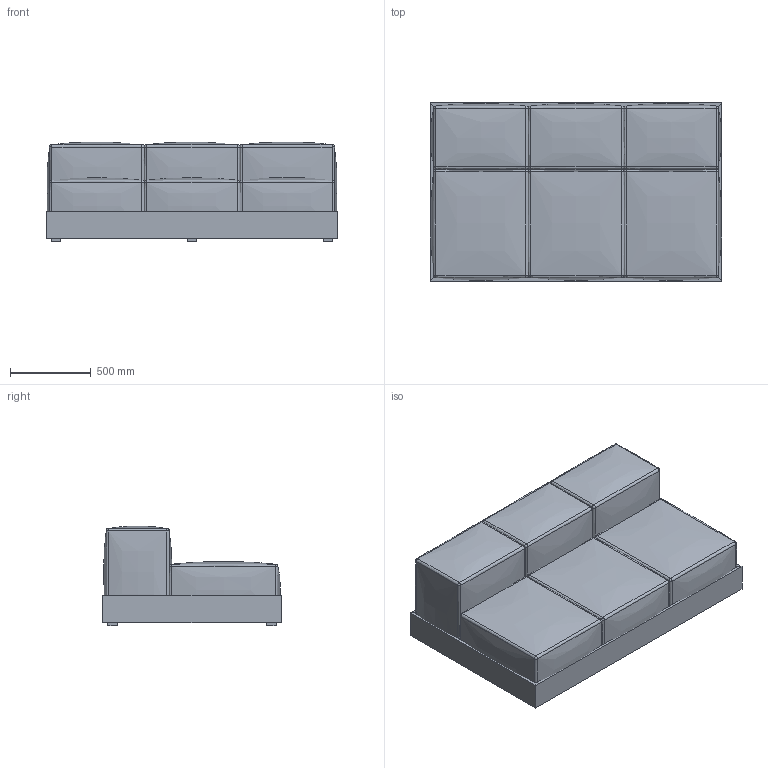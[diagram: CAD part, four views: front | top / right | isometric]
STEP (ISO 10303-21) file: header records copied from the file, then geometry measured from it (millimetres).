
FILE_DESCRIPTION(/* description */ (''),/* implementation_level */ '2;1');
FILE_NAME(/* name */ 'Polp1 180 nob.step',/* time_stamp */ '2024-01-07T09:59:07+01:00',/* author */ (''),/* organization */ (''),/* preprocessor_version */ 'ST-DEVELOPER v20',/* originating_system */ 'Autodesk Translation Framework v12.14.0.127',/* authorisation */ '');
FILE_SCHEMA (('AUTOMOTIVE_DESIGN { 1 0 10303 214 3 1 1 }'));
Length unit declared in the file: millimetre
Products named in the file (7): Polp1 180 nob; Component1; Component2; Component3; Component5; Component6; Component7
Assembly tree (6 placements, depth 2):
  Polp1 180 nob
    Component1
    Component2
    Component3
    Component5
    Component6
    Component7
Bounding box: 1800 x 1100 x 615 mm (x, y, z)
Volume: 856395091 mm3; surface area: 15617549.1 mm2
Topology: 22 solids, 22 shells, 252 faces, 480 edges, 272 vertices
Faces by surface type: plane 106, bspline 94, sphere 48, cylinder 4
Entity records: 17388 total; most frequent: CARTESIAN_POINT 12597, ORIENTED_EDGE 960, DIRECTION 830, EDGE_CURVE 480, AXIS2_PLACEMENT_3D 315, VERTEX_POINT 272, FACE_OUTER_BOUND 252, EDGE_LOOP 252
